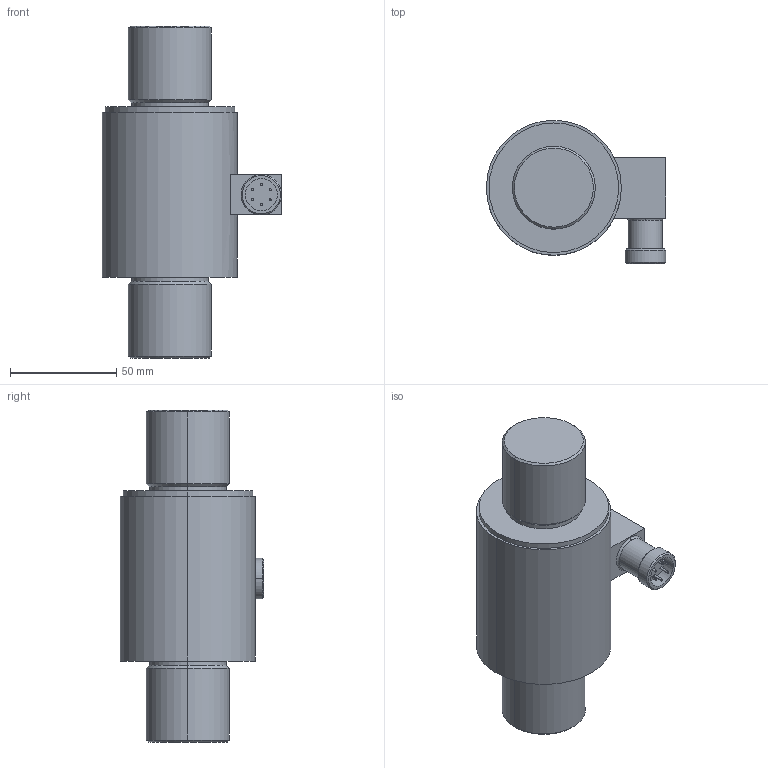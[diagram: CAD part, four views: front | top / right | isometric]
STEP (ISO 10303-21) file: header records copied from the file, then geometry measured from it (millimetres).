
FILE_DESCRIPTION(('STEP AP203'),'1');
FILE_NAME('C:/TPO v2/SharedFS/Outgoing/burster_85081-200_dw2z2o2n3f0dcceiyqec3kbd8.stp','2013-08-27T18:46:08',('TraceParts'),('TraceParts S.A.'),'XStep 1.0',' ',' ');
FILE_SCHEMA(('CONFIG_CONTROL_DESIGN'));
Length unit declared in the file: millimetre
Products named in the file (1): 1
Bounding box: 84.35 x 67.4 x 156.2 mm (x, y, z)
Volume: 358572.3 mm3; surface area: 35722.7 mm2
Topology: 7 solids, 7 shells, 69 faces, 132 edges, 83 vertices
Faces by surface type: cylinder 30, plane 25, cone 12, torus 2
Entity records: 1797 total; most frequent: DIRECTION 351, CARTESIAN_POINT 285, ORIENTED_EDGE 264, AXIS2_PLACEMENT_3D 149, EDGE_CURVE 132, VERTEX_POINT 83, CIRCLE 79, EDGE_LOOP 75
